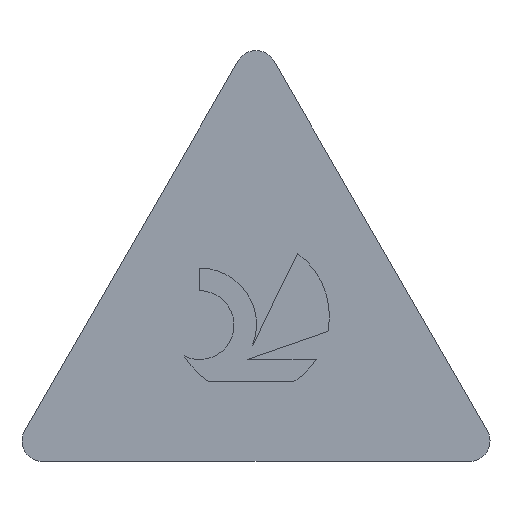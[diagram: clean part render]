
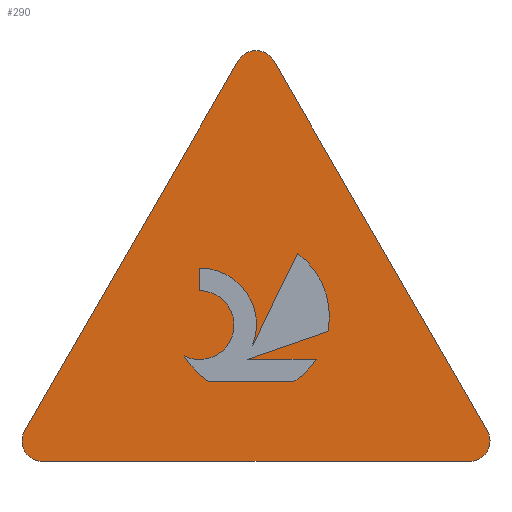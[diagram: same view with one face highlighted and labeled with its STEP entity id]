
A CAD part, top view. The second image highlights one B-rep face of the part: STEP entity #290.
In plain terms, the highlighted planar face has unit normal (0, 0, 1).
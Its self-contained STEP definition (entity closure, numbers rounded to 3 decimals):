
#138=EDGE_CURVE('',#268,#256,#367,.T.);
#146=EDGE_CURVE('',#158,#232,#376,.T.);
#148=EDGE_CURVE('',#186,#168,#378,.T.);
#158=VERTEX_POINT('',#390);
#166=VERTEX_POINT('',#398);
#168=VERTEX_POINT('',#400);
#182=EDGE_CURVE('',#168,#158,#415,.T.);
#186=VERTEX_POINT('',#419);
#196=EDGE_CURVE('',#210,#324,#430,.T.);
#198=EDGE_CURVE('',#328,#302,#432,.T.);
#210=VERTEX_POINT('',#445);
#212=EDGE_CURVE('',#214,#166,#447,.T.);
#214=VERTEX_POINT('',#449);
#218=EDGE_CURVE('',#314,#268,#453,.T.);
#222=EDGE_CURVE('',#302,#186,#457,.T.);
#224=EDGE_CURVE('',#166,#210,#459,.T.);
#228=EDGE_CURVE('',#256,#240,#464,.T.);
#232=VERTEX_POINT('',#468);
#240=VERTEX_POINT('',#477);
#244=EDGE_CURVE('',#232,#314,#481,.T.);
#256=VERTEX_POINT('',#494);
#268=VERTEX_POINT('',#509);
#272=EDGE_CURVE('',#324,#332,#513,.T.);
#276=EDGE_CURVE('',#332,#296,#517,.T.);
#286=VERTEX_POINT('',#527);
#288=EDGE_CURVE('',#286,#328,#529,.T.);
#290=ADVANCED_FACE('',(#531,#532),#533,.T.);
#296=VERTEX_POINT('',#540);
#302=VERTEX_POINT('',#546);
#314=VERTEX_POINT('',#560);
#324=VERTEX_POINT('',#571);
#328=VERTEX_POINT('',#575);
#330=EDGE_CURVE('',#240,#286,#577,.T.);
#332=VERTEX_POINT('',#579);
#336=EDGE_CURVE('',#296,#214,#584,.T.);
#367=CIRCLE('',#612,1.508);
#376=LINE('',#623,#624);
#378=CIRCLE('',#627,0.666);
#390=CARTESIAN_POINT('',(3.716,3.299,0.0));
#398=CARTESIAN_POINT('',(5.155,7.739,0.0));
#400=CARTESIAN_POINT('',(4.018,3.228,0.0));
#415=CIRCLE('',#672,0.666);
#419=CARTESIAN_POINT('',(3.423,2.038,0.0));
#430=LINE('',#692,#693);
#432=LINE('',#696,#697);
#445=CARTESIAN_POINT('',(4.468,7.738,0.0));
#447=LINE('',#719,#720);
#449=CARTESIAN_POINT('',(9.279,0.595,0.0));
#453=LINE('',#729,#730);
#457=CIRCLE('',#735,1.508);
#459=CIRCLE('',#738,0.397);
#464=LINE('',#744,#745);
#468=CARTESIAN_POINT('',(3.716,3.736,0.0));
#477=CARTESIAN_POINT('',(4.645,1.969,0.0));
#481=CIRCLE('',#766,1.096);
#494=CARTESIAN_POINT('',(6.2,2.509,0.0));
#509=CARTESIAN_POINT('',(5.619,4.016,0.0));
#513=CIRCLE('',#806,0.397);
#517=LINE('',#813,#814);
#527=CARTESIAN_POINT('',(5.977,1.969,0.0));
#529=CIRCLE('',#831,1.508);
#531=FACE_BOUND('',#833,.T.);
#532=FACE_OUTER_BOUND('',#834,.T.);
#533=PLANE('',#835);
#540=CARTESIAN_POINT('',(8.936,0.0,0.0));
#546=CARTESIAN_POINT('',(3.9,1.54,0.0));
#560=CARTESIAN_POINT('',(4.747,2.247,0.0));
#571=CARTESIAN_POINT('',(0.344,0.595,0.0));
#575=CARTESIAN_POINT('',(5.543,1.54,0.0));
#577=LINE('',#897,#898);
#579=CARTESIAN_POINT('',(0.688,0.0,0.0));
#584=CIRCLE('',#906,0.397);
#612=AXIS2_PLACEMENT_3D('',#926,#927,#928);
#623=CARTESIAN_POINT('',(3.716,3.257,0.0));
#624=VECTOR('',#940,1.0);
#627=AXIS2_PLACEMENT_3D('',#941,#942,#943);
#672=AXIS2_PLACEMENT_3D('',#986,#987,#988);
#692=CARTESIAN_POINT('',(4.468,7.739,0.0));
#693=VECTOR('',#999,1.0);
#696=CARTESIAN_POINT('',(4.356,1.54,0.0));
#697=VECTOR('',#1000,1.0);
#719=CARTESIAN_POINT('',(9.279,0.596,0.0));
#720=VECTOR('',#1014,1.0);
#729=CARTESIAN_POINT('',(5.295,3.358,0.0));
#730=VECTOR('',#1016,1.0);
#735=AXIS2_PLACEMENT_3D('',#1017,#1018,#1019);
#738=AXIS2_PLACEMENT_3D('',#1020,#1021,#1022);
#744=CARTESIAN_POINT('',(4.845,2.038,0.0));
#745=VECTOR('',#1031,1.0);
#766=AXIS2_PLACEMENT_3D('',#1043,#1044,#1045);
#806=AXIS2_PLACEMENT_3D('',#1084,#1085,#1086);
#813=CARTESIAN_POINT('',(0.688,0.0,0.0));
#814=VECTOR('',#1088,1.0);
#831=AXIS2_PLACEMENT_3D('',#1096,#1097,#1098);
#833=EDGE_LOOP('',(#1100,#1101,#1102,#1103,#1104,#1105,#1106,#1107,#1108,#1109,#1110));
#834=EDGE_LOOP('',(#1111,#1112,#1113,#1114,#1115,#1116));
#835=AXIS2_PLACEMENT_3D('',#1117,#1118,#1119);
#897=CARTESIAN_POINT('',(5.394,1.969,0.0));
#898=VECTOR('',#1163,1.0);
#906=AXIS2_PLACEMENT_3D('',#1172,#1173,#1174);
#926=CARTESIAN_POINT('',(4.721,2.804,0.0));
#927=DIRECTION('',(0.0,-0.0,-1.0));
#928=DIRECTION('',(0.981,-0.196,0.0));
#940=DIRECTION('',(0.0,1.0,0.0));
#941=CARTESIAN_POINT('',(3.72,2.633,0.0));
#942=DIRECTION('',(0.0,0.0,1.0));
#943=DIRECTION('',(-0.447,-0.894,0.0));
#986=CARTESIAN_POINT('',(3.72,2.633,0.0));
#987=DIRECTION('',(0.0,0.0,1.0));
#988=DIRECTION('',(-0.447,-0.894,0.0));
#999=DIRECTION('',(-0.5,-0.866,0.0));
#1000=DIRECTION('',(-1.0,0.0,0.0));
#1014=DIRECTION('',(-0.5,0.866,0.0));
#1016=DIRECTION('',(0.442,0.897,-0.0));
#1017=CARTESIAN_POINT('',(4.721,2.804,0.0));
#1018=DIRECTION('',(-0.0,0.0,-1.0));
#1019=DIRECTION('',(-0.861,-0.508,0.0));
#1020=CARTESIAN_POINT('',(4.812,7.54,0.0));
#1021=DIRECTION('',(0.0,-0.0,1.0));
#1022=DIRECTION('',(0.866,0.5,0.0));
#1031=DIRECTION('',(-0.945,-0.328,0.0));
#1043=CARTESIAN_POINT('',(3.725,2.641,0.0));
#1044=DIRECTION('',(0.0,-0.0,-1.0));
#1045=DIRECTION('',(0.933,-0.359,0.0));
#1084=CARTESIAN_POINT('',(0.688,0.397,0.0));
#1085=DIRECTION('',(0.0,0.0,1.0));
#1086=DIRECTION('',(-0.866,0.5,0.0));
#1088=DIRECTION('',(1.0,0.0,0.0));
#1096=CARTESIAN_POINT('',(4.721,2.804,0.0));
#1097=DIRECTION('',(0.0,-0.0,-1.0));
#1098=DIRECTION('',(0.545,-0.838,0.0));
#1100=ORIENTED_EDGE('',*,*,#146,.T.);
#1101=ORIENTED_EDGE('',*,*,#244,.T.);
#1102=ORIENTED_EDGE('',*,*,#218,.T.);
#1103=ORIENTED_EDGE('',*,*,#138,.T.);
#1104=ORIENTED_EDGE('',*,*,#228,.T.);
#1105=ORIENTED_EDGE('',*,*,#330,.T.);
#1106=ORIENTED_EDGE('',*,*,#288,.T.);
#1107=ORIENTED_EDGE('',*,*,#198,.T.);
#1108=ORIENTED_EDGE('',*,*,#222,.T.);
#1109=ORIENTED_EDGE('',*,*,#148,.T.);
#1110=ORIENTED_EDGE('',*,*,#182,.T.);
#1111=ORIENTED_EDGE('',*,*,#276,.T.);
#1112=ORIENTED_EDGE('',*,*,#336,.T.);
#1113=ORIENTED_EDGE('',*,*,#212,.T.);
#1114=ORIENTED_EDGE('',*,*,#224,.T.);
#1115=ORIENTED_EDGE('',*,*,#196,.T.);
#1116=ORIENTED_EDGE('',*,*,#272,.T.);
#1117=CARTESIAN_POINT('',(4.812,2.778,0.0));
#1118=DIRECTION('',(0.0,0.0,1.0));
#1119=DIRECTION('',(1.0,0.0,0.0));
#1163=DIRECTION('',(1.0,0.0,0.0));
#1172=CARTESIAN_POINT('',(8.936,0.397,0.0));
#1173=DIRECTION('',(0.0,0.0,1.0));
#1174=DIRECTION('',(0.,-1.0,0.0));
